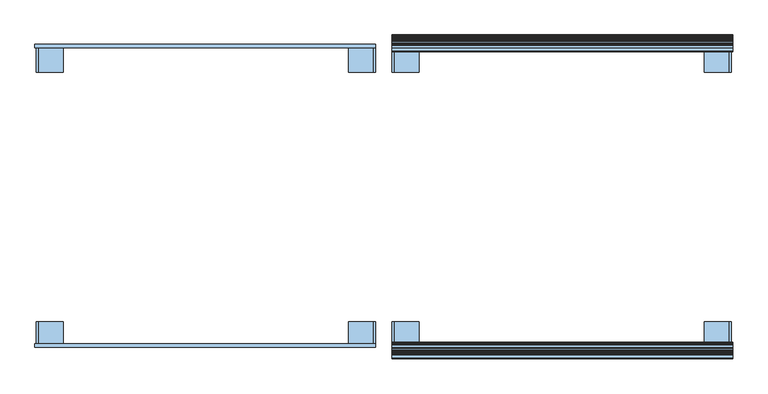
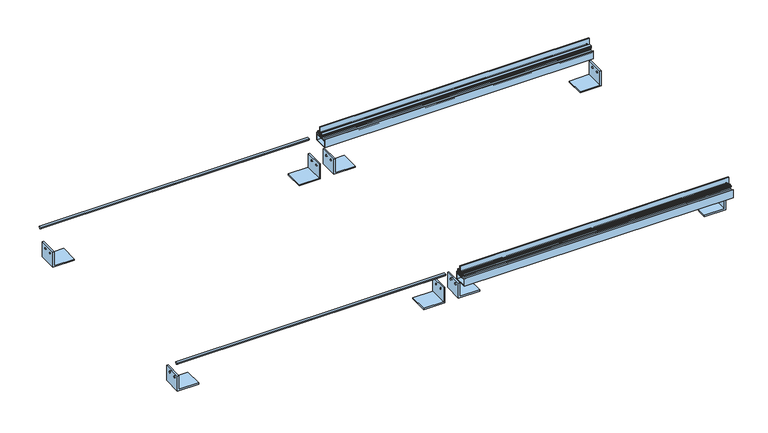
"""IFC4 building model written with IfcOpenShell, lengths in millimetres: window geometry, L&A_KlearSky_R19_GM_SingleSlope_LOD200 : KlearSky_Single Slope."""

from ifc_helpers import new_model, si_unit, point, frame, frame_2d, origin, place, context, project, spatial, polyline, circle_curve, trimmed, segment, composite_curve, outline, extrude, source, transform, mapped, element, save
from ifc_brep_helpers import plane_surface, revolved_surface, advanced_brep


def window_19c6d26b(model_context):
    return source(origin(), model_context, "Body", "SolidModel", [
        advanced_brep(
        [(1259.1922425, -1150.7467315, 4288.6), (1259.1922425, -1150.7467315, 4212.4), (1157.5922425, -1150.7467315, 4212.4), (1157.5922425, -1150.7467315, 4218.75), (1252.8422425, -1150.7467315, 4218.75), (1252.8422425, -1150.7467315, 4288.6), (1259.1922425, -1239.6467315, 4288.6), (1252.8422425, -1239.6467315, 4288.6), (1252.8422425, -1239.6467315, 4218.75), (1157.5922425, -1239.6467315, 4218.75), (1157.5922425, -1239.6467315, 4212.4), (1259.1922425, -1239.6467315, 4212.4), (1252.8422425, -1210.6748565, 4269.55), (1252.8422425, -1217.8186065, 4269.55), (1252.8422425, -1172.5748565, 4269.55), (1252.8422425, -1179.7186065, 4269.55), (1259.1922425, -1217.8186065, 4269.55), (1259.1922425, -1210.6748565, 4269.55), (1259.1922425, -1179.7186065, 4269.55), (1259.1922425, -1172.5748565, 4269.55)],
        [
            (0, 1),
            (1, 2),
            (2, 3),
            (3, 4),
            (4, 5),
            (5, 0),
            (6, 7),
            (7, 8),
            (8, 9),
            (9, 10),
            (10, 11),
            (11, 6),
            (5, 7),
            (6, 0),
            (4, 8),
            (12, 13, circle_curve(frame((1252.8422425, -1214.2467315, 4269.55), z_axis=(1.0, 0.0, 0.0), x_axis=(0.0, 1.0, 0.0)), 3.571875)),
            (13, 12, circle_curve(frame((1252.8422425, -1214.2467315, 4269.55), z_axis=(1.0, 0.0, 0.0), x_axis=(0.0, 1.0, 0.0)), 3.571875)),
            (14, 15, circle_curve(frame((1252.8422425, -1176.1467315, 4269.55), z_axis=(1.0, 0.0, 0.0), x_axis=(0.0, 1.0, 0.0)), 3.571875)),
            (15, 14, circle_curve(frame((1252.8422425, -1176.1467315, 4269.55), z_axis=(1.0, 0.0, 0.0), x_axis=(0.0, 1.0, 0.0)), 3.571875)),
            (3, 9),
            (2, 10),
            (1, 11),
            (16, 17, circle_curve(frame((1259.1922425, -1214.2467315, 4269.55), z_axis=(-1.0, 0.0, 0.0), x_axis=(0.0, 1.0, 0.0)), 3.571875)),
            (17, 16, circle_curve(frame((1259.1922425, -1214.2467315, 4269.55), z_axis=(-1.0, 0.0, 0.0), x_axis=(0.0, 1.0, 0.0)), 3.571875)),
            (18, 19, circle_curve(frame((1259.1922425, -1176.1467315, 4269.55), z_axis=(-1.0, 0.0, 0.0), x_axis=(0.0, 1.0, 0.0)), 3.571875)),
            (19, 18, circle_curve(frame((1259.1922425, -1176.1467315, 4269.55), z_axis=(-1.0, 0.0, 0.0), x_axis=(0.0, 1.0, 0.0)), 3.571875)),
            (13, 16),
            (17, 12),
            (15, 18),
            (19, 14),
        ],
        [
            plane_surface(frame((1259.1922425, -1150.7467315, 4288.6), z_axis=(0.0, 1.0, 0.0), x_axis=(-1.0, 0.0, 0.0))),
            plane_surface(frame((1259.1922425, -1239.6467315, 4288.6), z_axis=(0.0, -1.0, 0.0), x_axis=(1.0, 0.0, 0.0))),
            plane_surface(frame((1259.1922425, -1150.7467315, 4288.6), z_axis=(0.0, 0.0, 1.0), x_axis=(0.0, -1.0, 0.0))),
            plane_surface(frame((1252.8422425, -1150.7467315, 4288.6), z_axis=(-1.0, 0.0, 0.0), x_axis=(0.0, -1.0, 0.0))),
            plane_surface(frame((1252.8422425, -1150.7467315, 4218.75), z_axis=(0.0, 0.0, 1.0), x_axis=(0.0, -1.0, 0.0))),
            plane_surface(frame((1157.5922425, -1150.7467315, 4218.75), z_axis=(-1.0, 0.0, 0.0), x_axis=(0.0, -1.0, 0.0))),
            plane_surface(frame((1157.5922425, -1150.7467315, 4212.4), z_axis=(0.0, 0.0, -1.0), x_axis=(0.0, -1.0, 0.0))),
            plane_surface(frame((1259.1922425, -1150.7467315, 4212.4), z_axis=(1.0, 0.0, 0.0), x_axis=(0.0, -1.0, 0.0))),
            revolved_surface(polyline([(1252.8422425, -1210.6748564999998, 4269.55), (1259.1922425, -1210.6748564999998, 4269.55)]), (1259.1922425, -1214.2467315, 4269.55), (-1.0, 0.0, 0.0)),
            revolved_surface(polyline([(1252.8422425, -1172.5748565, 4269.55), (1259.1922425, -1172.5748565, 4269.55)]), (1259.1922425, -1176.1467315, 4269.55), (-1.0, 0.0, 0.0)),
        ],
        [
            (0, [[1, 2, 3, 4, 5, 6]]),
            (1, [[7, 8, 9, 10, 11, 12]]),
            (2, [[13, -7, 14, -6]]),
            (3, [[15, -8, -13, -5], [16, 17], [18, 19]]),
            (4, [[20, -9, -15, -4]]),
            (5, [[21, -10, -20, -3]]),
            (6, [[22, -11, -21, -2]]),
            (7, [[-14, -12, -22, -1], [23, 24], [25, 26]]),
            (8, [[-17, 27, -24, 28]]),
            (8, [[-23, -27, -16, -28]]),
            (9, [[-19, 29, -26, 30]]),
            (9, [[-25, -29, -18, -30]]),
        ],
    ),
        advanced_brep(
        [(1259.1922425, -122.0467315, 4288.6), (1259.1922425, -122.0467315, 4212.4), (1157.5922425, -122.0467315, 4212.4), (1157.5922425, -122.0467315, 4218.75), (1252.8422425, -122.0467315, 4218.75), (1252.8422425, -122.0467315, 4288.6), (1259.1922425, -210.9467315, 4288.6), (1252.8422425, -210.9467315, 4288.6), (1252.8422425, -210.9467315, 4218.75), (1157.5922425, -210.9467315, 4218.75), (1157.5922425, -210.9467315, 4212.4), (1259.1922425, -210.9467315, 4212.4), (1252.8422425, -181.9748565, 4269.55), (1252.8422425, -189.1186065, 4269.55), (1252.8422425, -143.8748565, 4269.55), (1252.8422425, -151.0186065, 4269.55), (1259.1922425, -189.1186065, 4269.55), (1259.1922425, -181.9748565, 4269.55), (1259.1922425, -151.0186065, 4269.55), (1259.1922425, -143.8748565, 4269.55)],
        [
            (0, 1),
            (1, 2),
            (2, 3),
            (3, 4),
            (4, 5),
            (5, 0),
            (6, 7),
            (7, 8),
            (8, 9),
            (9, 10),
            (10, 11),
            (11, 6),
            (5, 7),
            (6, 0),
            (4, 8),
            (12, 13, circle_curve(frame((1252.8422425, -185.5467315, 4269.55), z_axis=(1.0, 0.0, 0.0), x_axis=(0.0, 1.0, 0.0)), 3.571875)),
            (13, 12, circle_curve(frame((1252.8422425, -185.5467315, 4269.55), z_axis=(1.0, 0.0, 0.0), x_axis=(0.0, 1.0, 0.0)), 3.571875)),
            (14, 15, circle_curve(frame((1252.8422425, -147.4467315, 4269.55), z_axis=(1.0, 0.0, 0.0), x_axis=(0.0, 1.0, 0.0)), 3.571875)),
            (15, 14, circle_curve(frame((1252.8422425, -147.4467315, 4269.55), z_axis=(1.0, 0.0, 0.0), x_axis=(0.0, 1.0, 0.0)), 3.571875)),
            (3, 9),
            (2, 10),
            (1, 11),
            (16, 17, circle_curve(frame((1259.1922425, -185.5467315, 4269.55), z_axis=(-1.0, 0.0, 0.0), x_axis=(0.0, 1.0, 0.0)), 3.571875)),
            (17, 16, circle_curve(frame((1259.1922425, -185.5467315, 4269.55), z_axis=(-1.0, 0.0, 0.0), x_axis=(0.0, 1.0, 0.0)), 3.571875)),
            (18, 19, circle_curve(frame((1259.1922425, -147.4467315, 4269.55), z_axis=(-1.0, 0.0, 0.0), x_axis=(0.0, 1.0, 0.0)), 3.571875)),
            (19, 18, circle_curve(frame((1259.1922425, -147.4467315, 4269.55), z_axis=(-1.0, 0.0, 0.0), x_axis=(0.0, 1.0, 0.0)), 3.571875)),
            (13, 16),
            (17, 12),
            (15, 18),
            (19, 14),
        ],
        [
            plane_surface(frame((1259.1922425, -122.0467315, 4288.6), z_axis=(0.0, 1.0, 0.0), x_axis=(-1.0, 0.0, 0.0))),
            plane_surface(frame((1259.1922425, -210.9467315, 4288.6), z_axis=(0.0, -1.0, 0.0), x_axis=(1.0, 0.0, 0.0))),
            plane_surface(frame((1259.1922425, -122.0467315, 4288.6), z_axis=(0.0, 0.0, 1.0), x_axis=(0.0, -1.0, 0.0))),
            plane_surface(frame((1252.8422425, -122.0467315, 4288.6), z_axis=(-1.0, 0.0, 0.0), x_axis=(0.0, -1.0, 0.0))),
            plane_surface(frame((1252.8422425, -122.0467315, 4218.75), z_axis=(0.0, 0.0, 1.0), x_axis=(0.0, -1.0, 0.0))),
            plane_surface(frame((1157.5922425, -122.0467315, 4218.75), z_axis=(-1.0, 0.0, 0.0), x_axis=(0.0, -1.0, 0.0))),
            plane_surface(frame((1157.5922425, -122.0467315, 4212.4), z_axis=(0.0, 0.0, -1.0), x_axis=(0.0, -1.0, 0.0))),
            plane_surface(frame((1259.1922425, -122.0467315, 4212.4), z_axis=(1.0, 0.0, 0.0), x_axis=(0.0, -1.0, 0.0))),
            revolved_surface(polyline([(1252.8422425, -181.9748565, 4269.55), (1259.1922425, -181.9748565, 4269.55)]), (1259.1922425, -185.5467315, 4269.55), (-1.0, 0.0, 0.0)),
            revolved_surface(polyline([(1252.8422425, -143.8748565, 4269.55), (1259.1922425, -143.8748565, 4269.55)]), (1259.1922425, -147.4467315, 4269.55), (-1.0, 0.0, 0.0)),
        ],
        [
            (0, [[1, 2, 3, 4, 5, 6]]),
            (1, [[7, 8, 9, 10, 11, 12]]),
            (2, [[13, -7, 14, -6]]),
            (3, [[15, -8, -13, -5], [16, 17], [18, 19]]),
            (4, [[20, -9, -15, -4]]),
            (5, [[21, -10, -20, -3]]),
            (6, [[22, -11, -21, -2]]),
            (7, [[-14, -12, -22, -1], [23, 24], [25, 26]]),
            (8, [[-17, 27, -24, 28]]),
            (8, [[-23, -27, -16, -28]]),
            (9, [[-19, 29, -26, 30]]),
            (9, [[-25, -29, -18, -30]]),
        ],
    ),
        advanced_brep(
        [(-1357.0077575, -1150.7467315, 4288.6), (-1350.6577575, -1150.7467315, 4288.6), (-1350.6577575, -1150.7467315, 4218.75), (-1255.4077575, -1150.7467315, 4218.75), (-1255.4077575, -1150.7467315, 4212.4), (-1357.0077575, -1150.7467315, 4212.4), (-1357.0077575, -1239.6467315, 4288.6), (-1357.0077575, -1239.6467315, 4212.4), (-1255.4077575, -1239.6467315, 4212.4), (-1255.4077575, -1239.6467315, 4218.75), (-1350.6577575, -1239.6467315, 4218.75), (-1350.6577575, -1239.6467315, 4288.6), (-1350.6577575, -1210.6748565, 4269.55), (-1350.6577575, -1217.8186065, 4269.55), (-1350.6577575, -1172.5748565, 4269.55), (-1350.6577575, -1179.7186065, 4269.55), (-1357.0077575, -1217.8186065, 4269.55), (-1357.0077575, -1210.6748565, 4269.55), (-1357.0077575, -1179.7186065, 4269.55), (-1357.0077575, -1172.5748565, 4269.55)],
        [
            (0, 1),
            (1, 2),
            (2, 3),
            (3, 4),
            (4, 5),
            (5, 0),
            (6, 7),
            (7, 8),
            (8, 9),
            (9, 10),
            (10, 11),
            (11, 6),
            (0, 6),
            (11, 1),
            (10, 2),
            (12, 13, circle_curve(frame((-1350.6577575, -1214.2467315, 4269.55), z_axis=(-1.0, 0.0, 0.0), x_axis=(0.0, 1.0, 0.0)), 3.571875)),
            (13, 12, circle_curve(frame((-1350.6577575, -1214.2467315, 4269.55), z_axis=(-1.0, 0.0, 0.0), x_axis=(0.0, 1.0, 0.0)), 3.571875)),
            (14, 15, circle_curve(frame((-1350.6577575, -1176.1467315, 4269.55), z_axis=(-1.0, 0.0, 0.0), x_axis=(0.0, 1.0, 0.0)), 3.571875)),
            (15, 14, circle_curve(frame((-1350.6577575, -1176.1467315, 4269.55), z_axis=(-1.0, 0.0, 0.0), x_axis=(0.0, 1.0, 0.0)), 3.571875)),
            (9, 3),
            (8, 4),
            (7, 5),
            (16, 17, circle_curve(frame((-1357.0077575, -1214.2467315, 4269.55), z_axis=(1.0, 0.0, 0.0), x_axis=(0.0, 1.0, 0.0)), 3.571875)),
            (17, 16, circle_curve(frame((-1357.0077575, -1214.2467315, 4269.55), z_axis=(1.0, 0.0, 0.0), x_axis=(0.0, 1.0, 0.0)), 3.571875)),
            (18, 19, circle_curve(frame((-1357.0077575, -1176.1467315, 4269.55), z_axis=(1.0, 0.0, 0.0), x_axis=(0.0, 1.0, 0.0)), 3.571875)),
            (19, 18, circle_curve(frame((-1357.0077575, -1176.1467315, 4269.55), z_axis=(1.0, 0.0, 0.0), x_axis=(0.0, 1.0, 0.0)), 3.571875)),
            (12, 17),
            (16, 13),
            (14, 19),
            (18, 15),
        ],
        [
            plane_surface(frame((-1357.0077575, -1150.7467315, 4288.6), z_axis=(0.0, 1.0, 0.0), x_axis=(1.0, 0.0, 0.0))),
            plane_surface(frame((-1357.0077575, -1239.6467315, 4288.6), z_axis=(0.0, -1.0, 0.0), x_axis=(-1.0, 0.0, 0.0))),
            plane_surface(frame((-1357.0077575, -1150.7467315, 4288.6), z_axis=(0.0, 0.0, 1.0), x_axis=(0.0, -1.0, 0.0))),
            plane_surface(frame((-1350.6577575, -1150.7467315, 4288.6), z_axis=(1.0, 0.0, 0.0), x_axis=(0.0, -1.0, 0.0))),
            plane_surface(frame((-1350.6577575, -1150.7467315, 4218.75), z_axis=(0.0, 0.0, 1.0), x_axis=(0.0, -1.0, 0.0))),
            plane_surface(frame((-1255.4077575, -1150.7467315, 4218.75), z_axis=(1.0, 0.0, 0.0), x_axis=(0.0, -1.0, 0.0))),
            plane_surface(frame((-1255.4077575, -1150.7467315, 4212.4), z_axis=(0.0, 0.0, -1.0), x_axis=(0.0, -1.0, 0.0))),
            plane_surface(frame((-1357.0077575, -1150.7467315, 4212.4), z_axis=(-1.0, 0.0, 0.0), x_axis=(0.0, -1.0, 0.0))),
            revolved_surface(polyline([(-1350.6577575, -1210.6748564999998, 4269.55), (-1357.0077575, -1210.6748564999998, 4269.55)]), (-1357.0077575, -1214.2467315, 4269.55), (1.0, 0.0, 0.0)),
            revolved_surface(polyline([(-1350.6577575, -1172.5748565, 4269.55), (-1357.0077575, -1172.5748565, 4269.55)]), (-1357.0077575, -1176.1467315, 4269.55), (1.0, 0.0, 0.0)),
        ],
        [
            (0, [[1, 2, 3, 4, 5, 6]]),
            (1, [[7, 8, 9, 10, 11, 12]]),
            (2, [[-1, 13, -12, 14]]),
            (3, [[-2, -14, -11, 15], [16, 17], [18, 19]]),
            (4, [[-3, -15, -10, 20]]),
            (5, [[-4, -20, -9, 21]]),
            (6, [[-5, -21, -8, 22]]),
            (7, [[-6, -22, -7, -13], [23, 24], [25, 26]]),
            (8, [[27, -23, 28, -16]]),
            (8, [[-27, -17, -28, -24]]),
            (9, [[29, -25, 30, -18]]),
            (9, [[-29, -19, -30, -26]]),
        ],
    ),
        advanced_brep(
        [(-1357.0077575, -122.0467315, 4288.6), (-1350.6577575, -122.0467315, 4288.6), (-1350.6577575, -122.0467315, 4218.75), (-1255.4077575, -122.0467315, 4218.75), (-1255.4077575, -122.0467315, 4212.4), (-1357.0077575, -122.0467315, 4212.4), (-1357.0077575, -210.9467315, 4288.6), (-1357.0077575, -210.9467315, 4212.4), (-1255.4077575, -210.9467315, 4212.4), (-1255.4077575, -210.9467315, 4218.75), (-1350.6577575, -210.9467315, 4218.75), (-1350.6577575, -210.9467315, 4288.6), (-1350.6577575, -181.9748565, 4269.55), (-1350.6577575, -189.1186065, 4269.55), (-1350.6577575, -143.8748565, 4269.55), (-1350.6577575, -151.0186065, 4269.55), (-1357.0077575, -189.1186065, 4269.55), (-1357.0077575, -181.9748565, 4269.55), (-1357.0077575, -151.0186065, 4269.55), (-1357.0077575, -143.8748565, 4269.55)],
        [
            (0, 1),
            (1, 2),
            (2, 3),
            (3, 4),
            (4, 5),
            (5, 0),
            (6, 7),
            (7, 8),
            (8, 9),
            (9, 10),
            (10, 11),
            (11, 6),
            (0, 6),
            (11, 1),
            (10, 2),
            (12, 13, circle_curve(frame((-1350.6577575, -185.5467315, 4269.55), z_axis=(-1.0, 0.0, 0.0), x_axis=(0.0, 1.0, 0.0)), 3.571875)),
            (13, 12, circle_curve(frame((-1350.6577575, -185.5467315, 4269.55), z_axis=(-1.0, 0.0, 0.0), x_axis=(0.0, 1.0, 0.0)), 3.571875)),
            (14, 15, circle_curve(frame((-1350.6577575, -147.4467315, 4269.55), z_axis=(-1.0, 0.0, 0.0), x_axis=(0.0, 1.0, 0.0)), 3.571875)),
            (15, 14, circle_curve(frame((-1350.6577575, -147.4467315, 4269.55), z_axis=(-1.0, 0.0, 0.0), x_axis=(0.0, 1.0, 0.0)), 3.571875)),
            (9, 3),
            (8, 4),
            (7, 5),
            (16, 17, circle_curve(frame((-1357.0077575, -185.5467315, 4269.55), z_axis=(1.0, 0.0, 0.0), x_axis=(0.0, 1.0, 0.0)), 3.571875)),
            (17, 16, circle_curve(frame((-1357.0077575, -185.5467315, 4269.55), z_axis=(1.0, 0.0, 0.0), x_axis=(0.0, 1.0, 0.0)), 3.571875)),
            (18, 19, circle_curve(frame((-1357.0077575, -147.4467315, 4269.55), z_axis=(1.0, 0.0, 0.0), x_axis=(0.0, 1.0, 0.0)), 3.571875)),
            (19, 18, circle_curve(frame((-1357.0077575, -147.4467315, 4269.55), z_axis=(1.0, 0.0, 0.0), x_axis=(0.0, 1.0, 0.0)), 3.571875)),
            (12, 17),
            (16, 13),
            (14, 19),
            (18, 15),
        ],
        [
            plane_surface(frame((-1357.0077575, -122.0467315, 4288.6), z_axis=(0.0, 1.0, 0.0), x_axis=(1.0, 0.0, 0.0))),
            plane_surface(frame((-1357.0077575, -210.9467315, 4288.6), z_axis=(0.0, -1.0, 0.0), x_axis=(-1.0, 0.0, 0.0))),
            plane_surface(frame((-1357.0077575, -122.0467315, 4288.6), z_axis=(0.0, 0.0, 1.0), x_axis=(0.0, -1.0, 0.0))),
            plane_surface(frame((-1350.6577575, -122.0467315, 4288.6), z_axis=(1.0, 0.0, 0.0), x_axis=(0.0, -1.0, 0.0))),
            plane_surface(frame((-1350.6577575, -122.0467315, 4218.75), z_axis=(0.0, 0.0, 1.0), x_axis=(0.0, -1.0, 0.0))),
            plane_surface(frame((-1255.4077575, -122.0467315, 4218.75), z_axis=(1.0, 0.0, 0.0), x_axis=(0.0, -1.0, 0.0))),
            plane_surface(frame((-1255.4077575, -122.0467315, 4212.4), z_axis=(0.0, 0.0, -1.0), x_axis=(0.0, -1.0, 0.0))),
            plane_surface(frame((-1357.0077575, -122.0467315, 4212.4), z_axis=(-1.0, 0.0, 0.0), x_axis=(0.0, -1.0, 0.0))),
            revolved_surface(polyline([(-1350.6577575, -181.9748565, 4269.55), (-1357.0077575, -181.9748565, 4269.55)]), (-1357.0077575, -185.5467315, 4269.55), (1.0, 0.0, 0.0)),
            revolved_surface(polyline([(-1350.6577575, -143.8748565, 4269.55), (-1357.0077575, -143.8748565, 4269.55)]), (-1357.0077575, -147.4467315, 4269.55), (1.0, 0.0, 0.0)),
        ],
        [
            (0, [[1, 2, 3, 4, 5, 6]]),
            (1, [[7, 8, 9, 10, 11, 12]]),
            (2, [[-1, 13, -12, 14]]),
            (3, [[-2, -14, -11, 15], [16, 17], [18, 19]]),
            (4, [[-3, -15, -10, 20]]),
            (5, [[-4, -20, -9, 21]]),
            (6, [[-5, -21, -8, 22]]),
            (7, [[-6, -22, -7, -13], [23, 24], [25, 26]]),
            (8, [[27, -23, 28, -16]]),
            (8, [[-27, -17, -28, -24]]),
            (9, [[29, -25, 30, -18]]),
            (9, [[-29, -19, -30, -26]]),
        ],
    ),
        advanced_brep(
        [(-17.1577575, -1150.7467315, 4288.6), (-10.8077575, -1150.7467315, 4288.6), (-10.8077575, -1150.7467315, 4218.75), (84.4422425, -1150.7467315, 4218.75), (84.4422425, -1150.7467315, 4212.4), (-17.1577575, -1150.7467315, 4212.4), (-17.1577575, -1239.6467315, 4288.6), (-17.1577575, -1239.6467315, 4212.4), (84.4422425, -1239.6467315, 4212.4), (84.4422425, -1239.6467315, 4218.75), (-10.8077575, -1239.6467315, 4218.75), (-10.8077575, -1239.6467315, 4288.6), (-10.8077575, -1210.6748565, 4269.55), (-10.8077575, -1217.8186065, 4269.55), (-10.8077575, -1172.5748565, 4269.55), (-10.8077575, -1179.7186065, 4269.55), (-17.1577575, -1217.8186065, 4269.55), (-17.1577575, -1210.6748565, 4269.55), (-17.1577575, -1179.7186065, 4269.55), (-17.1577575, -1172.5748565, 4269.55)],
        [
            (0, 1),
            (1, 2),
            (2, 3),
            (3, 4),
            (4, 5),
            (5, 0),
            (6, 7),
            (7, 8),
            (8, 9),
            (9, 10),
            (10, 11),
            (11, 6),
            (0, 6),
            (11, 1),
            (10, 2),
            (12, 13, circle_curve(frame((-10.8077575, -1214.2467315, 4269.55), z_axis=(-1.0, 0.0, 0.0), x_axis=(0.0, 1.0, 0.0)), 3.571875)),
            (13, 12, circle_curve(frame((-10.8077575, -1214.2467315, 4269.55), z_axis=(-1.0, 0.0, 0.0), x_axis=(0.0, 1.0, 0.0)), 3.571875)),
            (14, 15, circle_curve(frame((-10.8077575, -1176.1467315, 4269.55), z_axis=(-1.0, 0.0, 0.0), x_axis=(0.0, 1.0, 0.0)), 3.571875)),
            (15, 14, circle_curve(frame((-10.8077575, -1176.1467315, 4269.55), z_axis=(-1.0, 0.0, 0.0), x_axis=(0.0, 1.0, 0.0)), 3.571875)),
            (9, 3),
            (8, 4),
            (7, 5),
            (16, 17, circle_curve(frame((-17.1577575, -1214.2467315, 4269.55), z_axis=(1.0, 0.0, 0.0), x_axis=(0.0, 1.0, 0.0)), 3.571875)),
            (17, 16, circle_curve(frame((-17.1577575, -1214.2467315, 4269.55), z_axis=(1.0, 0.0, 0.0), x_axis=(0.0, 1.0, 0.0)), 3.571875)),
            (18, 19, circle_curve(frame((-17.1577575, -1176.1467315, 4269.55), z_axis=(1.0, 0.0, 0.0), x_axis=(0.0, 1.0, 0.0)), 3.571875)),
            (19, 18, circle_curve(frame((-17.1577575, -1176.1467315, 4269.55), z_axis=(1.0, 0.0, 0.0), x_axis=(0.0, 1.0, 0.0)), 3.571875)),
            (12, 17),
            (16, 13),
            (14, 19),
            (18, 15),
        ],
        [
            plane_surface(frame((-17.1577575, -1150.7467315, 4288.6), z_axis=(0.0, 1.0, 0.0), x_axis=(1.0, 0.0, 0.0))),
            plane_surface(frame((-17.1577575, -1239.6467315, 4288.6), z_axis=(0.0, -1.0, 0.0), x_axis=(-1.0, 0.0, 0.0))),
            plane_surface(frame((-17.1577575, -1150.7467315, 4288.6), z_axis=(0.0, 0.0, 1.0), x_axis=(0.0, -1.0, 0.0))),
            plane_surface(frame((-10.8077575, -1150.7467315, 4288.6), z_axis=(1.0, 0.0, 0.0), x_axis=(0.0, -1.0, 0.0))),
            plane_surface(frame((-10.8077575, -1150.7467315, 4218.75), z_axis=(0.0, 0.0, 1.0), x_axis=(0.0, -1.0, 0.0))),
            plane_surface(frame((84.4422425, -1150.7467315, 4218.75), z_axis=(1.0, 0.0, 0.0), x_axis=(0.0, -1.0, 0.0))),
            plane_surface(frame((84.4422425, -1150.7467315, 4212.4), z_axis=(0.0, 0.0, -1.0), x_axis=(0.0, -1.0, 0.0))),
            plane_surface(frame((-17.1577575, -1150.7467315, 4212.4), z_axis=(-1.0, 0.0, 0.0), x_axis=(0.0, -1.0, 0.0))),
            revolved_surface(polyline([(-10.8077575, -1210.6748564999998, 4269.55), (-17.1577575, -1210.6748564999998, 4269.55)]), (-17.1577575, -1214.2467315, 4269.55), (1.0, 0.0, 0.0)),
            revolved_surface(polyline([(-10.8077575, -1172.5748565, 4269.55), (-17.1577575, -1172.5748565, 4269.55)]), (-17.1577575, -1176.1467315, 4269.55), (1.0, 0.0, 0.0)),
        ],
        [
            (0, [[1, 2, 3, 4, 5, 6]]),
            (1, [[7, 8, 9, 10, 11, 12]]),
            (2, [[-1, 13, -12, 14]]),
            (3, [[-2, -14, -11, 15], [16, 17], [18, 19]]),
            (4, [[-3, -15, -10, 20]]),
            (5, [[-4, -20, -9, 21]]),
            (6, [[-5, -21, -8, 22]]),
            (7, [[-6, -22, -7, -13], [23, 24], [25, 26]]),
            (8, [[27, -23, 28, -16]]),
            (8, [[-27, -17, -28, -24]]),
            (9, [[29, -25, 30, -18]]),
            (9, [[-29, -19, -30, -26]]),
        ],
    ),
        advanced_brep(
        [(-80.6577575, -1150.7467315, 4288.6), (-80.6577575, -1150.7467315, 4212.4), (-182.2577575, -1150.7467315, 4212.4), (-182.2577575, -1150.7467315, 4218.75), (-87.0077575, -1150.7467315, 4218.75), (-87.0077575, -1150.7467315, 4288.6), (-80.6577575, -1239.6467315, 4288.6), (-87.0077575, -1239.6467315, 4288.6), (-87.0077575, -1239.6467315, 4218.75), (-182.2577575, -1239.6467315, 4218.75), (-182.2577575, -1239.6467315, 4212.4), (-80.6577575, -1239.6467315, 4212.4), (-87.0077575, -1210.6748565, 4269.55), (-87.0077575, -1217.8186065, 4269.55), (-87.0077575, -1172.5748565, 4269.55), (-87.0077575, -1179.7186065, 4269.55), (-80.6577575, -1217.8186065, 4269.55), (-80.6577575, -1210.6748565, 4269.55), (-80.6577575, -1179.7186065, 4269.55), (-80.6577575, -1172.5748565, 4269.55)],
        [
            (0, 1),
            (1, 2),
            (2, 3),
            (3, 4),
            (4, 5),
            (5, 0),
            (6, 7),
            (7, 8),
            (8, 9),
            (9, 10),
            (10, 11),
            (11, 6),
            (5, 7),
            (6, 0),
            (4, 8),
            (12, 13, circle_curve(frame((-87.0077575, -1214.2467315, 4269.55), z_axis=(1.0, 0.0, 0.0), x_axis=(0.0, 1.0, 0.0)), 3.571875)),
            (13, 12, circle_curve(frame((-87.0077575, -1214.2467315, 4269.55), z_axis=(1.0, 0.0, 0.0), x_axis=(0.0, 1.0, 0.0)), 3.571875)),
            (14, 15, circle_curve(frame((-87.0077575, -1176.1467315, 4269.55), z_axis=(1.0, 0.0, 0.0), x_axis=(0.0, 1.0, 0.0)), 3.571875)),
            (15, 14, circle_curve(frame((-87.0077575, -1176.1467315, 4269.55), z_axis=(1.0, 0.0, 0.0), x_axis=(0.0, 1.0, 0.0)), 3.571875)),
            (3, 9),
            (2, 10),
            (1, 11),
            (16, 17, circle_curve(frame((-80.6577575, -1214.2467315, 4269.55), z_axis=(-1.0, 0.0, 0.0), x_axis=(0.0, 1.0, 0.0)), 3.571875)),
            (17, 16, circle_curve(frame((-80.6577575, -1214.2467315, 4269.55), z_axis=(-1.0, 0.0, 0.0), x_axis=(0.0, 1.0, 0.0)), 3.571875)),
            (18, 19, circle_curve(frame((-80.6577575, -1176.1467315, 4269.55), z_axis=(-1.0, 0.0, 0.0), x_axis=(0.0, 1.0, 0.0)), 3.571875)),
            (19, 18, circle_curve(frame((-80.6577575, -1176.1467315, 4269.55), z_axis=(-1.0, 0.0, 0.0), x_axis=(0.0, 1.0, 0.0)), 3.571875)),
            (13, 16),
            (17, 12),
            (15, 18),
            (19, 14),
        ],
        [
            plane_surface(frame((-80.6577575, -1150.7467315, 4288.6), z_axis=(0.0, 1.0, 0.0), x_axis=(-1.0, 0.0, 0.0))),
            plane_surface(frame((-80.6577575, -1239.6467315, 4288.6), z_axis=(0.0, -1.0, 0.0), x_axis=(1.0, 0.0, 0.0))),
            plane_surface(frame((-80.6577575, -1150.7467315, 4288.6), z_axis=(0.0, 0.0, 1.0), x_axis=(0.0, -1.0, 0.0))),
            plane_surface(frame((-87.0077575, -1150.7467315, 4288.6), z_axis=(-1.0, 0.0, 0.0), x_axis=(0.0, -1.0, 0.0))),
            plane_surface(frame((-87.0077575, -1150.7467315, 4218.75), z_axis=(0.0, 0.0, 1.0), x_axis=(0.0, -1.0, 0.0))),
            plane_surface(frame((-182.2577575, -1150.7467315, 4218.75), z_axis=(-1.0, 0.0, 0.0), x_axis=(0.0, -1.0, 0.0))),
            plane_surface(frame((-182.2577575, -1150.7467315, 4212.4), z_axis=(0.0, 0.0, -1.0), x_axis=(0.0, -1.0, 0.0))),
            plane_surface(frame((-80.6577575, -1150.7467315, 4212.4), z_axis=(1.0, 0.0, 0.0), x_axis=(0.0, -1.0, 0.0))),
            revolved_surface(polyline([(-87.0077575, -1210.6748564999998, 4269.55), (-80.6577575, -1210.6748564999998, 4269.55)]), (-80.6577575, -1214.2467315, 4269.55), (-1.0, 0.0, 0.0)),
            revolved_surface(polyline([(-87.0077575, -1172.5748565, 4269.55), (-80.6577575, -1172.5748565, 4269.55)]), (-80.6577575, -1176.1467315, 4269.55), (-1.0, 0.0, 0.0)),
        ],
        [
            (0, [[1, 2, 3, 4, 5, 6]]),
            (1, [[7, 8, 9, 10, 11, 12]]),
            (2, [[13, -7, 14, -6]]),
            (3, [[15, -8, -13, -5], [16, 17], [18, 19]]),
            (4, [[20, -9, -15, -4]]),
            (5, [[21, -10, -20, -3]]),
            (6, [[22, -11, -21, -2]]),
            (7, [[-14, -12, -22, -1], [23, 24], [25, 26]]),
            (8, [[-17, 27, -24, 28]]),
            (8, [[-23, -27, -16, -28]]),
            (9, [[-19, 29, -26, 30]]),
            (9, [[-25, -29, -18, -30]]),
        ],
    ),
        advanced_brep(
        [(-17.1577575, -210.9467315, 4288.6), (-17.1577575, -210.9467315, 4212.4), (84.4422425, -210.9467315, 4212.4), (84.4422425, -210.9467315, 4218.75), (-10.8077575, -210.9467315, 4218.75), (-10.8077575, -210.9467315, 4288.6), (-17.1577575, -122.0467315, 4288.6), (-10.8077575, -122.0467315, 4288.6), (-10.8077575, -122.0467315, 4218.75), (84.4422425, -122.0467315, 4218.75), (84.4422425, -122.0467315, 4212.4), (-17.1577575, -122.0467315, 4212.4), (-10.8077575, -151.0186065, 4269.55), (-10.8077575, -143.8748565, 4269.55), (-10.8077575, -189.1186065, 4269.55), (-10.8077575, -181.9748565, 4269.55), (-17.1577575, -143.8748565, 4269.55), (-17.1577575, -151.0186065, 4269.55), (-17.1577575, -181.9748565, 4269.55), (-17.1577575, -189.1186065, 4269.55)],
        [
            (0, 1),
            (1, 2),
            (2, 3),
            (3, 4),
            (4, 5),
            (5, 0),
            (6, 7),
            (7, 8),
            (8, 9),
            (9, 10),
            (10, 11),
            (11, 6),
            (5, 7),
            (6, 0),
            (4, 8),
            (12, 13, circle_curve(frame((-10.8077575, -147.4467315, 4269.55), z_axis=(-1.0, 0.0, 0.0), x_axis=(0.0, -1.0, 0.0)), 3.571875)),
            (13, 12, circle_curve(frame((-10.8077575, -147.4467315, 4269.55), z_axis=(-1.0, 0.0, 0.0), x_axis=(0.0, -1.0, 0.0)), 3.571875)),
            (14, 15, circle_curve(frame((-10.8077575, -185.5467315, 4269.55), z_axis=(-1.0, 0.0, 0.0), x_axis=(0.0, -1.0, 0.0)), 3.571875)),
            (15, 14, circle_curve(frame((-10.8077575, -185.5467315, 4269.55), z_axis=(-1.0, 0.0, 0.0), x_axis=(0.0, -1.0, 0.0)), 3.571875)),
            (3, 9),
            (2, 10),
            (1, 11),
            (16, 17, circle_curve(frame((-17.1577575, -147.4467315, 4269.55), z_axis=(1.0, 0.0, 0.0), x_axis=(0.0, -1.0, 0.0)), 3.571875)),
            (17, 16, circle_curve(frame((-17.1577575, -147.4467315, 4269.55), z_axis=(1.0, 0.0, 0.0), x_axis=(0.0, -1.0, 0.0)), 3.571875)),
            (18, 19, circle_curve(frame((-17.1577575, -185.5467315, 4269.55), z_axis=(1.0, 0.0, 0.0), x_axis=(0.0, -1.0, 0.0)), 3.571875)),
            (19, 18, circle_curve(frame((-17.1577575, -185.5467315, 4269.55), z_axis=(1.0, 0.0, 0.0), x_axis=(0.0, -1.0, 0.0)), 3.571875)),
            (13, 16),
            (17, 12),
            (15, 18),
            (19, 14),
        ],
        [
            plane_surface(frame((-17.1577575, -210.9467315, 4288.6), z_axis=(0.0, -1.0, 0.0), x_axis=(1.0, 0.0, 0.0))),
            plane_surface(frame((-17.1577575, -122.0467315, 4288.6), z_axis=(0.0, 1.0, 0.0), x_axis=(-1.0, 0.0, 0.0))),
            plane_surface(frame((-17.1577575, -210.9467315, 4288.6), z_axis=(0.0, 0.0, 1.0), x_axis=(0.0, 1.0, 0.0))),
            plane_surface(frame((-10.8077575, -210.9467315, 4288.6), z_axis=(1.0, 0.0, 0.0), x_axis=(0.0, 1.0, 0.0))),
            plane_surface(frame((-10.8077575, -210.9467315, 4218.75), z_axis=(0.0, 0.0, 1.0), x_axis=(0.0, 1.0, 0.0))),
            plane_surface(frame((84.4422425, -210.9467315, 4218.75), z_axis=(1.0, 0.0, 0.0), x_axis=(0.0, 1.0, 0.0))),
            plane_surface(frame((84.4422425, -210.9467315, 4212.4), z_axis=(0.0, 0.0, -1.0), x_axis=(0.0, 1.0, 0.0))),
            plane_surface(frame((-17.1577575, -210.9467315, 4212.4), z_axis=(-1.0, 0.0, 0.0), x_axis=(0.0, 1.0, 0.0))),
            revolved_surface(polyline([(-10.8077575, -151.0186065, 4269.55), (-17.1577575, -151.0186065, 4269.55)]), (-17.1577575, -147.4467315, 4269.55), (1.0, 0.0, 0.0)),
            revolved_surface(polyline([(-10.8077575, -189.1186065, 4269.55), (-17.1577575, -189.1186065, 4269.55)]), (-17.1577575, -185.5467315, 4269.55), (1.0, 0.0, 0.0)),
        ],
        [
            (0, [[1, 2, 3, 4, 5, 6]]),
            (1, [[7, 8, 9, 10, 11, 12]]),
            (2, [[13, -7, 14, -6]]),
            (3, [[15, -8, -13, -5], [16, 17], [18, 19]]),
            (4, [[20, -9, -15, -4]]),
            (5, [[21, -10, -20, -3]]),
            (6, [[22, -11, -21, -2]]),
            (7, [[-14, -12, -22, -1], [23, 24], [25, 26]]),
            (8, [[-17, 27, -24, 28]]),
            (8, [[-23, -27, -16, -28]]),
            (9, [[-19, 29, -26, 30]]),
            (9, [[-25, -29, -18, -30]]),
        ],
    ),
        advanced_brep(
        [(-80.6577575, -210.9467315, 4288.6), (-87.0077575, -210.9467315, 4288.6), (-87.0077575, -210.9467315, 4218.75), (-182.2577575, -210.9467315, 4218.75), (-182.2577575, -210.9467315, 4212.4), (-80.6577575, -210.9467315, 4212.4), (-80.6577575, -122.0467315, 4288.6), (-80.6577575, -122.0467315, 4212.4), (-182.2577575, -122.0467315, 4212.4), (-182.2577575, -122.0467315, 4218.75), (-87.0077575, -122.0467315, 4218.75), (-87.0077575, -122.0467315, 4288.6), (-87.0077575, -151.0186065, 4269.55), (-87.0077575, -143.8748565, 4269.55), (-87.0077575, -189.1186065, 4269.55), (-87.0077575, -181.9748565, 4269.55), (-80.6577575, -143.8748565, 4269.55), (-80.6577575, -151.0186065, 4269.55), (-80.6577575, -181.9748565, 4269.55), (-80.6577575, -189.1186065, 4269.55)],
        [
            (0, 1),
            (1, 2),
            (2, 3),
            (3, 4),
            (4, 5),
            (5, 0),
            (6, 7),
            (7, 8),
            (8, 9),
            (9, 10),
            (10, 11),
            (11, 6),
            (0, 6),
            (11, 1),
            (10, 2),
            (12, 13, circle_curve(frame((-87.0077575, -147.4467315, 4269.55), z_axis=(1.0, 0.0, 0.0), x_axis=(0.0, -1.0, 0.0)), 3.571875)),
            (13, 12, circle_curve(frame((-87.0077575, -147.4467315, 4269.55), z_axis=(1.0, 0.0, 0.0), x_axis=(0.0, -1.0, 0.0)), 3.571875)),
            (14, 15, circle_curve(frame((-87.0077575, -185.5467315, 4269.55), z_axis=(1.0, 0.0, 0.0), x_axis=(0.0, -1.0, 0.0)), 3.571875)),
            (15, 14, circle_curve(frame((-87.0077575, -185.5467315, 4269.55), z_axis=(1.0, 0.0, 0.0), x_axis=(0.0, -1.0, 0.0)), 3.571875)),
            (9, 3),
            (8, 4),
            (7, 5),
            (16, 17, circle_curve(frame((-80.6577575, -147.4467315, 4269.55), z_axis=(-1.0, 0.0, 0.0), x_axis=(0.0, -1.0, 0.0)), 3.571875)),
            (17, 16, circle_curve(frame((-80.6577575, -147.4467315, 4269.55), z_axis=(-1.0, 0.0, 0.0), x_axis=(0.0, -1.0, 0.0)), 3.571875)),
            (18, 19, circle_curve(frame((-80.6577575, -185.5467315, 4269.55), z_axis=(-1.0, 0.0, 0.0), x_axis=(0.0, -1.0, 0.0)), 3.571875)),
            (19, 18, circle_curve(frame((-80.6577575, -185.5467315, 4269.55), z_axis=(-1.0, 0.0, 0.0), x_axis=(0.0, -1.0, 0.0)), 3.571875)),
            (12, 17),
            (16, 13),
            (14, 19),
            (18, 15),
        ],
        [
            plane_surface(frame((-80.6577575, -210.9467315, 4288.6), z_axis=(0.0, -1.0, 0.0), x_axis=(-1.0, 0.0, 0.0))),
            plane_surface(frame((-80.6577575, -122.0467315, 4288.6), z_axis=(0.0, 1.0, 0.0), x_axis=(1.0, 0.0, 0.0))),
            plane_surface(frame((-80.6577575, -210.9467315, 4288.6), z_axis=(0.0, 0.0, 1.0), x_axis=(0.0, 1.0, 0.0))),
            plane_surface(frame((-87.0077575, -210.9467315, 4288.6), z_axis=(-1.0, 0.0, 0.0), x_axis=(0.0, 1.0, 0.0))),
            plane_surface(frame((-87.0077575, -210.9467315, 4218.75), z_axis=(0.0, 0.0, 1.0), x_axis=(0.0, 1.0, 0.0))),
            plane_surface(frame((-182.2577575, -210.9467315, 4218.75), z_axis=(-1.0, 0.0, 0.0), x_axis=(0.0, 1.0, 0.0))),
            plane_surface(frame((-182.2577575, -210.9467315, 4212.4), z_axis=(0.0, 0.0, -1.0), x_axis=(0.0, 1.0, 0.0))),
            plane_surface(frame((-80.6577575, -210.9467315, 4212.4), z_axis=(1.0, 0.0, 0.0), x_axis=(0.0, 1.0, 0.0))),
            revolved_surface(polyline([(-87.0077575, -151.0186065, 4269.55), (-80.6577575, -151.0186065, 4269.55)]), (-80.6577575, -147.4467315, 4269.55), (-1.0, 0.0, 0.0)),
            revolved_surface(polyline([(-87.0077575, -189.1186065, 4269.55), (-80.6577575, -189.1186065, 4269.55)]), (-80.6577575, -185.5467315, 4269.55), (-1.0, 0.0, 0.0)),
        ],
        [
            (0, [[1, 2, 3, 4, 5, 6]]),
            (1, [[7, 8, 9, 10, 11, 12]]),
            (2, [[-1, 13, -12, 14]]),
            (3, [[-2, -14, -11, 15], [16, 17], [18, 19]]),
            (4, [[-3, -15, -10, 20]]),
            (5, [[-4, -20, -9, 21]]),
            (6, [[-5, -21, -8, 22]]),
            (7, [[-6, -22, -7, -13], [23, 24], [25, 26]]),
            (8, [[27, -23, 28, -16]]),
            (8, [[-27, -17, -28, -24]]),
            (9, [[29, -25, 30, -18]]),
            (9, [[-29, -19, -30, -26]]),
        ],
    ),
        extrude(outline(polyline([(-106.1967315, 4357.8876055), (-106.1967315, 4353.1124055), (-111.1497315, 4353.1124055), (-111.6577315, 4351.1280305), (-110.1337315, 4351.1280305), (-110.1337315, 4350.3184055), (-112.5467315, 4349.4294055), (-114.9597315, 4350.3184055), (-114.9597315, 4351.1280305), (-113.4357315, 4351.1280305), (-113.9437315, 4353.1124055), (-118.8967315, 4353.1124055), (-118.8967315, 4357.8876055), (-106.1967315, 4357.8876055)])), frame((-17.1640075, 0.0, 0.0), z_axis=(1.0, 0.0, 0.0), x_axis=(0.0, 1.0, 0.0)), (0.0, 0.0, 1.0), 1281.90625),
        extrude(outline(polyline([(-1233.2967315, 4357.8876055), (-1233.2967315, 4353.1124055), (-1238.2497315, 4353.1124055), (-1238.7577315, 4351.1280305), (-1237.2337315, 4351.1280305), (-1237.2337315, 4350.3184055), (-1239.6467315, 4349.4294055), (-1242.0597315, 4350.3184055), (-1242.0597315, 4351.1280305), (-1240.5357315, 4351.1280305), (-1241.0437315, 4353.1124055), (-1245.9967315, 4353.1124055), (-1245.9967315, 4357.8876055), (-1233.2967315, 4357.8876055)])), frame((-17.1640075, 0.0, 0.0), z_axis=(1.0, 0.0, 0.0), x_axis=(0.0, 1.0, 0.0)), (0.0, 0.0, 1.0), 1281.90625),
        extrude(outline(composite_curve([segment(polyline([(-77.5967315, 4352.8876055), (-77.5967315, 4343.3626055), (-84.4116995, 4336.5476376)]), True, "CONTINUOUS"), segment(trimmed(circle_curve(frame_2d((-83.2891675, 4335.4251055)), 1.5875), [point((-84.4116995, 4336.5476376))], [point((-83.2891675, 4333.8376055))], True, "CARTESIAN"), True, "CONTINUOUS"), segment(polyline([(-83.2891675, 4333.8376055), (-73.2279315, 4333.8376055), (-73.2279315, 4340.1876055), (-71.2467315, 4340.1876055), (-71.2467315, 4302.0876055), (-134.7467315, 4302.0876055), (-134.7467315, 4340.1876055), (-132.7655315, 4340.1876055), (-132.7655315, 4333.8376055), (-115.6967315, 4333.8376055)]), True, "CONTINUOUS"), segment(trimmed(circle_curve(frame_2d((-115.6967315, 4337.0126055)), 3.175), [point((-115.6967315, 4333.8376055))], [point((-112.5217315, 4337.0126055))], True, "CARTESIAN"), True, "CONTINUOUS"), segment(polyline([(-112.5217315, 4337.0126055), (-109.3467315, 4340.1876055), (-109.3467315, 4344.9501055), (-117.2842315, 4344.9501055)]), True, "CONTINUOUS"), segment(trimmed(circle_curve(frame_2d((-117.2842315, 4346.5376055)), 1.5875), [point((-117.2842315, 4344.9501055))], [point((-118.8717315, 4346.5376055))], False, "CARTESIAN"), True, "CONTINUOUS"), segment(polyline([(-118.8717315, 4346.5376055), (-118.8717315, 4352.8876055), (-115.3792315, 4352.8876055)]), True, "CONTINUOUS"), segment(trimmed(circle_curve(frame_2d((-115.3792315, 4351.5858555)), 1.30175), [point((-115.3792315, 4352.8876055))], [point((-114.1092315, 4351.3001055))], False, "CARTESIAN"), True, "CONTINUOUS"), segment(polyline([(-114.1092315, 4351.3001055), (-115.6967315, 4351.3001055), (-115.6967315, 4348.1251055), (-109.3467315, 4348.1251055), (-109.3467315, 4351.3001055), (-110.9342315, 4351.3001055)]), True, "CONTINUOUS"), segment(trimmed(circle_curve(frame_2d((-109.6642315, 4351.5858555)), 1.30175), [point((-110.9342315, 4351.3001055))], [point((-109.6642315, 4352.8876055))], False, "CARTESIAN"), True, "CONTINUOUS"), segment(polyline([(-109.6642315, 4352.8876055), (-107.5433315, 4352.8876055), (-105.3131138, 4350.6573878), (-106.3037138, 4350.0854646), (-105.2777492, 4349.4931237), (-106.3037138, 4348.9007828), (-105.2777492, 4348.3084419), (-106.3037138, 4347.716101), (-105.2777492, 4347.1237601), (-106.3037138, 4346.5314192), (-105.2777492, 4345.9390783), (-106.3037138, 4345.3467374), (-105.2777492, 4344.7543965), (-106.3037138, 4344.1620556), (-105.2777492, 4343.5697147), (-106.3037138, 4342.9773738), (-105.2777492, 4342.3850329), (-106.3037138, 4341.792692), (-105.2777492, 4341.2003511), (-106.3037138, 4340.6080102), (-105.2777492, 4340.0156692), (-106.3037138, 4339.4233283), (-105.2777492, 4338.8309874), (-106.3037138, 4338.2386465), (-105.2777492, 4337.6463056), (-106.37535, 4337.0126055), (-107.7592315, 4337.0126055)]), True, "CONTINUOUS"), segment(trimmed(circle_curve(frame_2d((-107.7592315, 4335.4251055)), 1.5875), [point((-107.7592315, 4337.0126055))], [point((-107.7592315, 4333.8376055))], True, "CARTESIAN"), True, "CONTINUOUS"), segment(polyline([(-107.7592315, 4333.8376055), (-98.2342315, 4333.8376055)]), True, "CONTINUOUS"), segment(trimmed(circle_curve(frame_2d((-98.2342315, 4335.4251055)), 1.5875), [point((-98.2342315, 4333.8376055))], [point((-98.2342315, 4337.0126055))], True, "CARTESIAN"), True, "CONTINUOUS"), segment(polyline([(-98.2342315, 4337.0126055), (-99.8217315, 4337.0126055), (-99.8217315, 4337.7945933), (-100.7157138, 4338.2686056), (-99.6897492, 4338.8609465), (-100.7157138, 4339.4532874), (-99.6897492, 4340.0456283), (-100.7157138, 4340.6379692), (-99.6897492, 4341.2303102), (-100.7157138, 4341.8226511), (-99.6897492, 4342.414992), (-100.7157138, 4343.0073329), (-99.6897492, 4343.5996738), (-100.7157138, 4344.1920147), (-99.6897492, 4344.7843556), (-100.7157138, 4345.3766965), (-99.6897492, 4345.9690374), (-100.7157138, 4346.5613783), (-99.6897492, 4347.1537192), (-100.7157138, 4347.7460601), (-99.6897492, 4348.338401), (-100.7157138, 4348.9307419), (-99.6897492, 4349.5230828), (-100.7157138, 4350.1154237), (-99.6897492, 4350.7077646), (-100.6803492, 4351.2796878), (-99.8217315, 4352.1383055), (-99.8217315, 4382.9343213), (-96.6467315, 4382.9343213), (-96.6467315, 4340.1876055), (-93.4717315, 4337.0126055), (-93.4717315, 4333.8376055), (-88.7092315, 4333.8376055), (-88.7092315, 4336.7402336), (-83.2093916, 4342.2400735)]), True, "CONTINUOUS"), segment(trimmed(circle_curve(frame_2d((-84.3319236, 4343.3626055)), 1.5875), [point((-83.2093916, 4342.2400735))], [point((-84.3319236, 4344.9501055))], True, "CARTESIAN"), True, "CONTINUOUS"), segment(polyline([(-84.3319236, 4344.9501055), (-87.9142115, 4344.9501055)]), True, "CONTINUOUS"), segment(trimmed(circle_curve(frame_2d((-87.9142115, 4346.5376055)), 1.5875), [point((-87.9142115, 4344.9501055))], [point((-89.5017115, 4346.5376055))], False, "CARTESIAN"), True, "CONTINUOUS"), segment(polyline([(-89.5017115, 4346.5376055), (-89.5017115, 4351.3001055)]), True, "CONTINUOUS"), segment(trimmed(circle_curve(frame_2d((-87.9142115, 4351.3001055)), 1.5875), [point((-89.5017115, 4351.3001055))], [point((-87.9142115, 4352.8876055))], False, "CARTESIAN"), True, "CONTINUOUS"), segment(polyline([(-87.9142115, 4352.8876055), (-86.8042315, 4352.8876055)]), True, "CONTINUOUS"), segment(trimmed(circle_curve(frame_2d((-86.8042315, 4351.5858555)), 1.30175), [point((-86.8042315, 4352.8876055))], [point((-85.5342315, 4351.3001055))], False, "CARTESIAN"), True, "CONTINUOUS"), segment(polyline([(-85.5342315, 4351.3001055), (-87.1217315, 4351.3001055), (-87.1217315, 4348.1251055), (-80.7717315, 4348.1251055), (-80.7717315, 4351.3001055), (-82.3592315, 4351.3001055)]), True, "CONTINUOUS"), segment(trimmed(circle_curve(frame_2d((-81.0892315, 4351.5858555)), 1.30175), [point((-82.3592315, 4351.3001055))], [point((-81.0892315, 4352.8876055))], False, "CARTESIAN"), True, "CONTINUOUS"), segment(polyline([(-81.0892315, 4352.8876055), (-77.5967315, 4352.8876055)]), True, "CONTINUOUS")], self_intersect=False), holes=[polyline([(-74.4217315, 4305.2626055), (-74.4217315, 4330.6626055), (-131.5717315, 4330.6626055), (-131.5717315, 4305.2626055), (-74.4217315, 4305.2626055)])]), frame((-17.1640075, 0.0, 0.0), z_axis=(1.0, 0.0, 0.0), x_axis=(0.0, 1.0, 0.0)), (0.0, 0.0, 1.0), 1281.90625),
        extrude(outline(composite_curve([segment(polyline([(-1233.2967315, 4352.8876055), (-1233.2967315, 4343.3626055), (-1240.1116995, 4336.5476376)]), True, "CONTINUOUS"), segment(trimmed(circle_curve(frame_2d((-1238.9891675, 4335.4251055)), 1.5875), [point((-1240.1116995, 4336.5476376))], [point((-1238.9891675, 4333.8376055))], True, "CARTESIAN"), True, "CONTINUOUS"), segment(polyline([(-1238.9891675, 4333.8376055), (-1228.9279315, 4333.8376055), (-1228.9279315, 4340.1876055), (-1226.9467315, 4340.1876055), (-1226.9467315, 4302.0876055), (-1290.4467315, 4302.0876055), (-1290.4467315, 4340.1876055), (-1288.4655315, 4340.1876055), (-1288.4655315, 4333.8376055), (-1271.3967315, 4333.8376055)]), True, "CONTINUOUS"), segment(trimmed(circle_curve(frame_2d((-1271.3967315, 4337.0126055)), 3.175), [point((-1271.3967315, 4333.8376055))], [point((-1268.2217315, 4337.0126055))], True, "CARTESIAN"), True, "CONTINUOUS"), segment(polyline([(-1268.2217315, 4337.0126055), (-1265.0467315, 4340.1876055), (-1265.0467315, 4344.9501055), (-1272.9842315, 4344.9501055)]), True, "CONTINUOUS"), segment(trimmed(circle_curve(frame_2d((-1272.9842315, 4346.5376055)), 1.5875), [point((-1272.9842315, 4344.9501055))], [point((-1274.5717315, 4346.5376055))], False, "CARTESIAN"), True, "CONTINUOUS"), segment(polyline([(-1274.5717315, 4346.5376055), (-1274.5717315, 4352.8876055), (-1271.0792315, 4352.8876055)]), True, "CONTINUOUS"), segment(trimmed(circle_curve(frame_2d((-1271.0792315, 4351.5858555)), 1.30175), [point((-1271.0792315, 4352.8876055))], [point((-1269.8092315, 4351.3001055))], False, "CARTESIAN"), True, "CONTINUOUS"), segment(polyline([(-1269.8092315, 4351.3001055), (-1271.3967315, 4351.3001055), (-1271.3967315, 4348.1251055), (-1265.0467315, 4348.1251055), (-1265.0467315, 4351.3001055), (-1266.6342315, 4351.3001055)]), True, "CONTINUOUS"), segment(trimmed(circle_curve(frame_2d((-1265.3642315, 4351.5858555)), 1.30175), [point((-1266.6342315, 4351.3001055))], [point((-1265.3642315, 4352.8876055))], False, "CARTESIAN"), True, "CONTINUOUS"), segment(polyline([(-1265.3642315, 4352.8876055), (-1263.2433315, 4352.8876055), (-1261.0131138, 4350.6573878), (-1262.0037138, 4350.0854646), (-1260.9777492, 4349.4931237), (-1262.0037138, 4348.9007828), (-1260.9777492, 4348.3084419), (-1262.0037138, 4347.716101), (-1260.9777492, 4347.1237601), (-1262.0037138, 4346.5314192), (-1260.9777492, 4345.9390783), (-1262.0037138, 4345.3467374), (-1260.9777492, 4344.7543965), (-1262.0037138, 4344.1620556), (-1260.9777492, 4343.5697147), (-1262.0037138, 4342.9773738), (-1260.9777492, 4342.3850329), (-1262.0037138, 4341.792692), (-1260.9777492, 4341.2003511), (-1262.0037138, 4340.6080102), (-1260.9777492, 4340.0156692), (-1262.0037138, 4339.4233283), (-1260.9777492, 4338.8309874), (-1262.0037138, 4338.2386465), (-1260.9777492, 4337.6463056), (-1262.07535, 4337.0126055), (-1263.4592315, 4337.0126055)]), True, "CONTINUOUS"), segment(trimmed(circle_curve(frame_2d((-1263.4592315, 4335.4251055)), 1.5875), [point((-1263.4592315, 4337.0126055))], [point((-1263.4592315, 4333.8376055))], True, "CARTESIAN"), True, "CONTINUOUS"), segment(polyline([(-1263.4592315, 4333.8376055), (-1253.9342315, 4333.8376055)]), True, "CONTINUOUS"), segment(trimmed(circle_curve(frame_2d((-1253.9342315, 4335.4251055)), 1.5875), [point((-1253.9342315, 4333.8376055))], [point((-1253.9342315, 4337.0126055))], True, "CARTESIAN"), True, "CONTINUOUS"), segment(polyline([(-1253.9342315, 4337.0126055), (-1255.5217315, 4337.0126055), (-1255.5217315, 4337.7945933), (-1256.4157138, 4338.2686056), (-1255.3897492, 4338.8609465), (-1256.4157138, 4339.4532874), (-1255.3897492, 4340.0456283), (-1256.4157138, 4340.6379692), (-1255.3897492, 4341.2303102), (-1256.4157138, 4341.8226511), (-1255.3897492, 4342.414992), (-1256.4157138, 4343.0073329), (-1255.3897492, 4343.5996738), (-1256.4157138, 4344.1920147), (-1255.3897492, 4344.7843556), (-1256.4157138, 4345.3766965), (-1255.3897492, 4345.9690374), (-1256.4157138, 4346.5613783), (-1255.3897492, 4347.1537192), (-1256.4157138, 4347.7460601), (-1255.3897492, 4348.338401), (-1256.4157138, 4348.9307419), (-1255.3897492, 4349.5230828), (-1256.4157138, 4350.1154237), (-1255.3897492, 4350.7077646), (-1256.3803492, 4351.2796878), (-1255.5217315, 4352.1383055), (-1255.5217315, 4382.9343213), (-1252.3467315, 4382.9343213), (-1252.3467315, 4340.1876055), (-1249.1717315, 4337.0126055), (-1249.1717315, 4333.8376055), (-1244.4092315, 4333.8376055), (-1244.4092315, 4336.7402336), (-1238.9093916, 4342.2400735)]), True, "CONTINUOUS"), segment(trimmed(circle_curve(frame_2d((-1240.0319236, 4343.3626055)), 1.5875), [point((-1238.9093916, 4342.2400735))], [point((-1240.0319236, 4344.9501055))], True, "CARTESIAN"), True, "CONTINUOUS"), segment(polyline([(-1240.0319236, 4344.9501055), (-1243.6142115, 4344.9501055)]), True, "CONTINUOUS"), segment(trimmed(circle_curve(frame_2d((-1243.6142115, 4346.5376055)), 1.5875), [point((-1243.6142115, 4344.9501055))], [point((-1245.2017115, 4346.5376055))], False, "CARTESIAN"), True, "CONTINUOUS"), segment(polyline([(-1245.2017115, 4346.5376055), (-1245.2017115, 4351.3001055)]), True, "CONTINUOUS"), segment(trimmed(circle_curve(frame_2d((-1243.6142115, 4351.3001055)), 1.5875), [point((-1245.2017115, 4351.3001055))], [point((-1243.6142115, 4352.8876055))], False, "CARTESIAN"), True, "CONTINUOUS"), segment(polyline([(-1243.6142115, 4352.8876055), (-1242.5042315, 4352.8876055)]), True, "CONTINUOUS"), segment(trimmed(circle_curve(frame_2d((-1242.5042315, 4351.5858555)), 1.30175), [point((-1242.5042315, 4352.8876055))], [point((-1241.2342315, 4351.3001055))], False, "CARTESIAN"), True, "CONTINUOUS"), segment(polyline([(-1241.2342315, 4351.3001055), (-1242.8217315, 4351.3001055), (-1242.8217315, 4348.1251055), (-1236.4717315, 4348.1251055), (-1236.4717315, 4351.3001055), (-1238.0592315, 4351.3001055)]), True, "CONTINUOUS"), segment(trimmed(circle_curve(frame_2d((-1236.7892315, 4351.5858555)), 1.30175), [point((-1238.0592315, 4351.3001055))], [point((-1236.7892315, 4352.8876055))], False, "CARTESIAN"), True, "CONTINUOUS"), segment(polyline([(-1236.7892315, 4352.8876055), (-1233.2967315, 4352.8876055)]), True, "CONTINUOUS")], self_intersect=False), holes=[polyline([(-1230.1217315, 4305.2626055), (-1230.1217315, 4330.6626055), (-1287.2717315, 4330.6626055), (-1287.2717315, 4305.2626055), (-1230.1217315, 4305.2626055)])]), frame((-17.1640075, 0.0, 0.0), z_axis=(1.0, 0.0, 0.0), x_axis=(0.0, 1.0, 0.0)), (0.0, 0.0, 1.0), 1281.90625),
        extrude(outline(polyline([(-106.1967315, 4357.8876055), (-106.1967315, 4353.1124055), (-111.1497315, 4353.1124055), (-111.6577315, 4351.1280305), (-110.1337315, 4351.1280305), (-110.1337315, 4350.3184055), (-112.5467315, 4349.4294055), (-114.9597315, 4350.3184055), (-114.9597315, 4351.1280305), (-113.4357315, 4351.1280305), (-113.9437315, 4353.1124055), (-118.8967315, 4353.1124055), (-118.8967315, 4357.8876055), (-106.1967315, 4357.8876055)])), frame((-1362.5577575, 0.0, 0.0), z_axis=(1.0, 0.0, 0.0), x_axis=(0.0, 1.0, 0.0)), (0.0, 0.0, 1.0), 1281.90625),
        extrude(outline(polyline([(-1233.2967315, 4357.8876055), (-1233.2967315, 4353.1124055), (-1238.2497315, 4353.1124055), (-1238.7577315, 4351.1280305), (-1237.2337315, 4351.1280305), (-1237.2337315, 4350.3184055), (-1239.6467315, 4349.4294055), (-1242.0597315, 4350.3184055), (-1242.0597315, 4351.1280305), (-1240.5357315, 4351.1280305), (-1241.0437315, 4353.1124055), (-1245.9967315, 4353.1124055), (-1245.9967315, 4357.8876055), (-1233.2967315, 4357.8876055)])), frame((-1362.5577575, 0.0, 0.0), z_axis=(1.0, 0.0, 0.0), x_axis=(0.0, 1.0, 0.0)), (0.0, 0.0, 1.0), 1281.90625),
    ])


if __name__ == "__main__":
    model = new_model("IFC4")
    model_context = context("Model", 3, world=origin())
    ifc_project = project(units=[si_unit("LENGTHUNIT", "METRE", prefix="MILLI")], contexts=[model_context])
    site = spatial("IfcSite", under=ifc_project)
    building = spatial("IfcBuilding", under=site)
    placement = place(None, origin())
    window_shape = window_19c6d26b(model_context)
    element("IfcWindow", 1, ObjectType="L&A_KlearSky_R19_GM_SingleSlope_LOD200 : KlearSky_Single Slope", at=placement, inside=building, context=model_context, shape_type="MappedRepresentation", body=[
        mapped(window_shape, transform((0.0, 0.0, 0.0), x_axis=(1.0, 0.0, 0.0), y_axis=(0.0, 1.0, 0.0), z_axis=(0.0, 0.0, 1.0))),
    ])
    save(model, "model.ifc")
